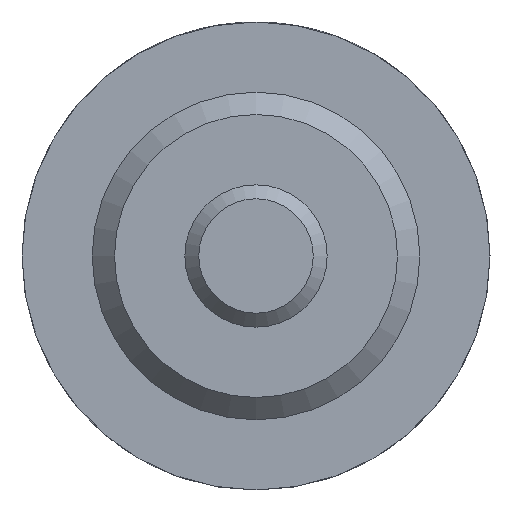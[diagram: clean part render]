
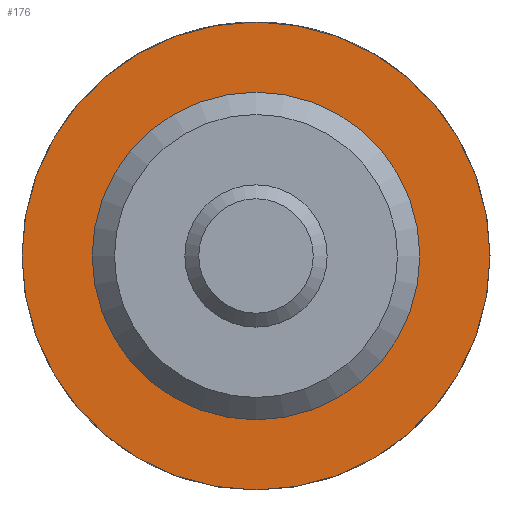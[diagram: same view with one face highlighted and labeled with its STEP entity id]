
A CAD part, left-side view. The second image highlights one B-rep face of the part: STEP entity #176.
In plain terms, the highlighted planar face has unit normal (-1, 0, 0).
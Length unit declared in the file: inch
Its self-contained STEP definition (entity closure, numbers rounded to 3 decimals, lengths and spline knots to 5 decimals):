
#176 = ADVANCED_FACE( '', ( #359, #360 ), #361, .F. );
#359 = FACE_OUTER_BOUND( '', #535, .T. );
#360 = FACE_BOUND( '', #536, .T. );
#361 = PLANE( '', #537 );
#535 = EDGE_LOOP( '', ( #792 ) );
#536 = EDGE_LOOP( '', ( #793 ) );
#537 = AXIS2_PLACEMENT_3D( '', #794, #795, #796 );
#792 = ORIENTED_EDGE( '', *, *, #880, .F. );
#793 = ORIENTED_EDGE( '', *, *, #929, .T. );
#794 = CARTESIAN_POINT( '', ( 0.375, 0.2185, 0. ) );
#795 = DIRECTION( '', ( 1., 0., 0. ) );
#796 = DIRECTION( '', ( 0., 0., -1. ) );
#880 = EDGE_CURVE( '', #999, #999, #1000, .T. );
#929 = EDGE_CURVE( '', #1070, #1070, #1071, .T. );
#999 = VERTEX_POINT( '', #1217 );
#1000 = CIRCLE( '', #1218, 0.3125 );
#1070 = VERTEX_POINT( '', #1364 );
#1071 = CIRCLE( '', #1365, 0.2185 );
#1217 = CARTESIAN_POINT( '', ( 0.375, 0., -0.3125 ) );
#1218 = AXIS2_PLACEMENT_3D( '', #1434, #1435, #1436 );
#1364 = CARTESIAN_POINT( '', ( 0.375, 0., -0.2185 ) );
#1365 = AXIS2_PLACEMENT_3D( '', #1495, #1496, #1497 );
#1434 = CARTESIAN_POINT( '', ( 0.375, 0., 0. ) );
#1435 = DIRECTION( '', ( 1., 0., 0. ) );
#1436 = DIRECTION( '', ( 0., 0., -1. ) );
#1495 = CARTESIAN_POINT( '', ( 0.375, 0., 0. ) );
#1496 = DIRECTION( '', ( 1., 0., 0. ) );
#1497 = DIRECTION( '', ( 0., 0., -1. ) );
